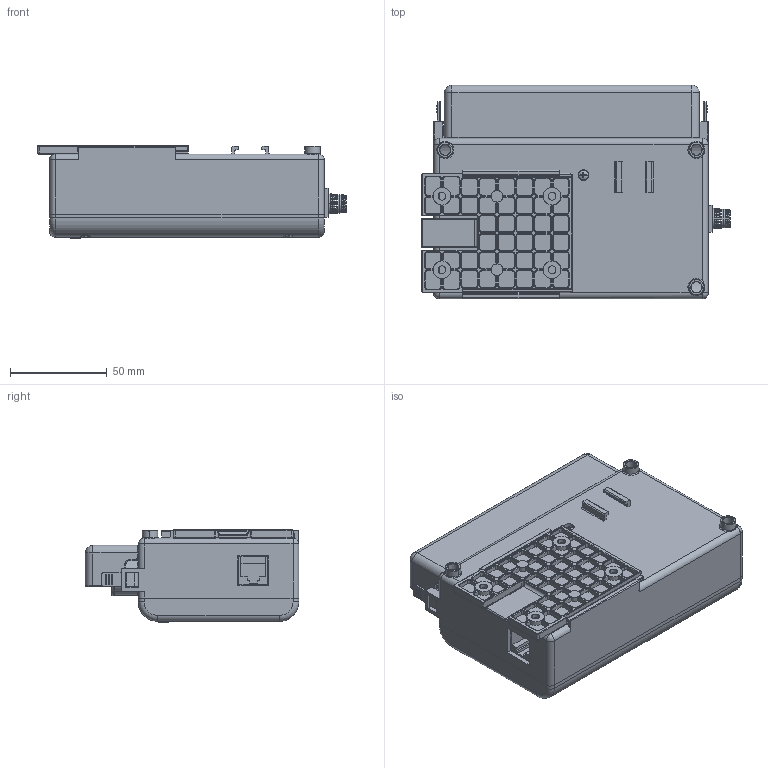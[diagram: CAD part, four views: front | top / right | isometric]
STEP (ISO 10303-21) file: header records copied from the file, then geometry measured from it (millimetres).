
FILE_DESCRIPTION (( 'STEP AP203' ), '1' );
FILE_NAME ('CS2-BT-YOU.STEP', '2022-07-28T02:55:48', ( '' ), ( '' ), 'SwSTEP 2.0', 'SolidWorks 2020', '' );
FILE_SCHEMA (( 'CONFIG_CONTROL_DESIGN' ));
Length unit declared in the file: millimetre
Products named in the file (1): CS2-BT-YOU
Bounding box: 159.7 x 110.5 x 47.8 mm (x, y, z)
Surface area: 80594.2 mm2 (no closed solid volume)
Topology: 0 solids, 20 shells, 1332 faces, 3952 edges, 2622 vertices
Faces by surface type: cylinder 566, plane 456, torus 245, bspline 27, cone 24, sphere 14
Entity records: 52505 total; most frequent: CARTESIAN_POINT 16685, DIRECTION 7864, ORIENTED_EDGE 6946, EDGE_CURVE 3943, AXIS2_PLACEMENT_3D 2983, VERTEX_POINT 2622, VECTOR 1898, LINE 1898
